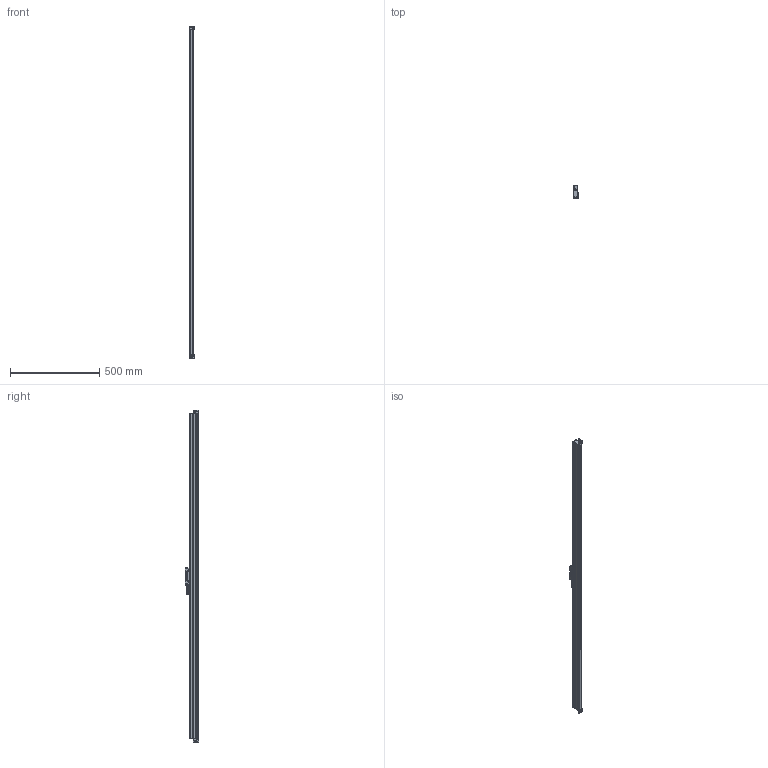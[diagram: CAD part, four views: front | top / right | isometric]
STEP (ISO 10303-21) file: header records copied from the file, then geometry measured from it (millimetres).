
FILE_DESCRIPTION (( 'STEP AP214' ), '1' );
FILE_NAME ('MLC310x1700.STEP', '2021-05-08T11:54:34', ( '' ), ( '' ), 'SwSTEP 2.0', 'SolidWorks 2014', '' );
FILE_SCHEMA (( 'AUTOMOTIVE_DESIGN' ));
Length unit declared in the file: millimetre
Products named in the file (1): MLC310x1700
Bounding box: 27 x 75.15 x 1864 mm (x, y, z)
Surface area: 315528.7 mm2 (no closed solid volume)
Topology: 0 solids, 21 shells, 364 faces, 1287 edges, 928 vertices
Faces by surface type: plane 141, cylinder 135, cone 63, bspline 17, torus 8
Entity records: 27304 total; most frequent: CARTESIAN_POINT 12567, DIRECTION 2217, ORIENTED_EDGE 1943, EDGE_CURVE 1285, VERTEX_POINT 928, AXIS2_PLACEMENT_3D 772, VECTOR 673, LINE 673
